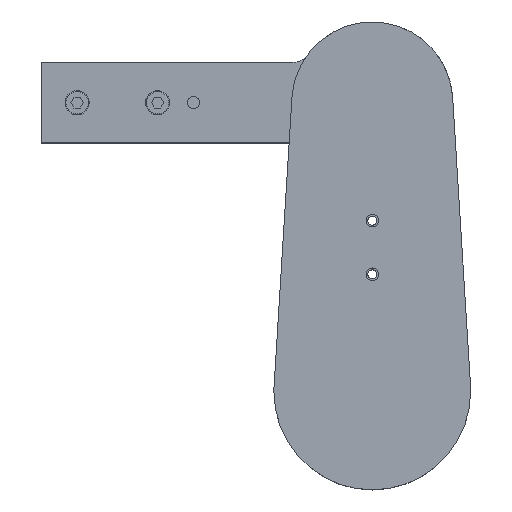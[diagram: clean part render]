
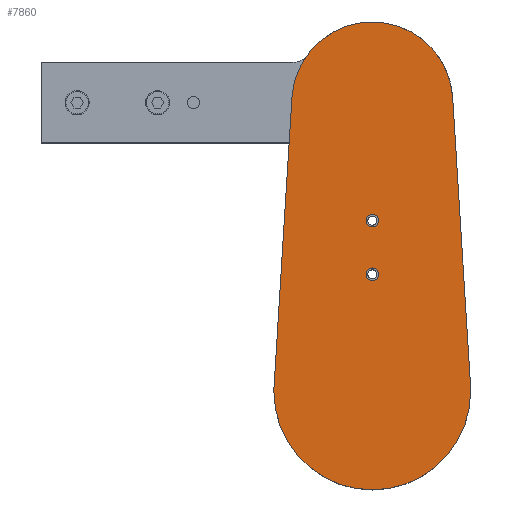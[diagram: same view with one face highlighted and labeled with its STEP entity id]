
A CAD part, top view. The second image highlights one B-rep face of the part: STEP entity #7860.
In plain terms, the highlighted planar face has unit normal (0, 0, 1) as drawn and (0, 0, -1) by its records, which use the part's own axes.
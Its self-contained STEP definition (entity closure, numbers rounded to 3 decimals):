
#61 = EDGE_CURVE ( 'NONE', #11121, #37070, #25354, .T. ) ;
#118 = EDGE_CURVE ( 'NONE', #35769, #34939, #22482, .T. ) ;
#123 = AXIS2_PLACEMENT_3D ( 'NONE', #19800, #1754, #22874 ) ;
#273 = CARTESIAN_POINT ( 'NONE',  ( -3.5, 65.5, 0. ) ) ;
#326 = CARTESIAN_POINT ( 'NONE',  ( 3.5, 95.5, 0. ) ) ;
#841 = DIRECTION ( 'NONE',  ( 1., 0., 0. ) ) ;
#1150 = DIRECTION ( 'NONE',  ( 0., 0., 1. ) ) ;
#1428 = CIRCLE ( 'NONE', #12777, 3.5 ) ;
#1754 = DIRECTION ( 'NONE',  ( 0., 0., -1. ) ) ;
#1779 = ORIENTED_EDGE ( 'NONE', *, *, #31655, .F. ) ;
#3441 = VECTOR ( 'NONE', #25063, 1000. ) ;
#3688 = VERTEX_POINT ( 'NONE', #273 ) ;
#4233 = CARTESIAN_POINT ( 'NONE',  ( 44.914, 164.286, 0. ) ) ;
#4661 = EDGE_CURVE ( 'NONE', #19662, #3688, #1428, .T. ) ;
#5235 = VECTOR ( 'NONE', #28407, 1000. ) ;
#5456 = FACE_BOUND ( 'NONE', #28185, .T. ) ;
#5550 = CARTESIAN_POINT ( 'NONE',  ( -44.914, 164.286, 0. ) ) ;
#5711 = ORIENTED_EDGE ( 'NONE', *, *, #14341, .F. ) ;
#6231 = VERTEX_POINT ( 'NONE', #10737 ) ;
#7860 = ADVANCED_FACE ( 'NONE', ( #5456, #21486, #28590 ), #37302, .F. ) ;
#8021 = CIRCLE ( 'NONE', #36277, 3.5 ) ;
#8253 = CIRCLE ( 'NONE', #123, 3.5 ) ;
#8349 = AXIS2_PLACEMENT_3D ( 'NONE', #13120, #1150, #22245 ) ;
#8771 = VERTEX_POINT ( 'NONE', #5550 ) ;
#9019 = AXIS2_PLACEMENT_3D ( 'NONE', #28924, #10839, #31958 ) ;
#10737 = CARTESIAN_POINT ( 'NONE',  ( -3.5, 95.5, 0. ) ) ;
#10839 = DIRECTION ( 'NONE',  ( 0., 0., 1. ) ) ;
#10924 = ORIENTED_EDGE ( 'NONE', *, *, #22373, .F. ) ;
#11121 = VERTEX_POINT ( 'NONE', #21973 ) ;
#11630 = EDGE_LOOP ( 'NONE', ( #10924, #25170, #20421, #37523, #34141, #5711 ) ) ;
#11641 = CARTESIAN_POINT ( 'NONE',  ( 0., 65.5, 0. ) ) ;
#12050 = CARTESIAN_POINT ( 'NONE',  ( 0., 161.5, 0. ) ) ;
#12663 = CARTESIAN_POINT ( 'NONE',  ( 0., 95.5, 0. ) ) ;
#12777 = AXIS2_PLACEMENT_3D ( 'NONE', #11641, #32764, #14686 ) ;
#13120 = CARTESIAN_POINT ( 'NONE',  ( 0., 161.5, 0. ) ) ;
#13205 = EDGE_CURVE ( 'NONE', #3688, #19662, #22415, .T. ) ;
#14341 = EDGE_CURVE ( 'NONE', #8771, #35769, #36509, .T. ) ;
#14686 = DIRECTION ( 'NONE',  ( 1., 0., 0. ) ) ;
#14912 = DIRECTION ( 'NONE',  ( 0., 0., 1. ) ) ;
#15100 = DIRECTION ( 'NONE',  ( 1., 0., 0. ) ) ;
#15685 = DIRECTION ( 'NONE',  ( 1., 0., 0. ) ) ;
#16493 = CIRCLE ( 'NONE', #30298, 45. ) ;
#17058 = CARTESIAN_POINT ( 'NONE',  ( -54.894, 3.406, 0. ) ) ;
#17548 = DIRECTION ( 'NONE',  ( 0., 0., 1. ) ) ;
#18856 = CARTESIAN_POINT ( 'NONE',  ( 3.5, 65.5, 0. ) ) ;
#18911 = DIRECTION ( 'NONE',  ( 0., 0., -1. ) ) ;
#18962 = CARTESIAN_POINT ( 'NONE',  ( -44.914, 164.286, 0. ) ) ;
#19228 = EDGE_CURVE ( 'NONE', #6231, #34405, #8253, .T. ) ;
#19662 = VERTEX_POINT ( 'NONE', #18856 ) ;
#19800 = CARTESIAN_POINT ( 'NONE',  ( 0., 95.5, 0. ) ) ;
#20040 = CARTESIAN_POINT ( 'NONE',  ( 44.914, 164.286, 0. ) ) ;
#20421 = ORIENTED_EDGE ( 'NONE', *, *, #61, .F. ) ;
#20979 = EDGE_CURVE ( 'NONE', #34939, #11121, #38843, .T. ) ;
#21486 = FACE_BOUND ( 'NONE', #30524, .T. ) ;
#21973 = CARTESIAN_POINT ( 'NONE',  ( 55., 0., 0. ) ) ;
#22245 = DIRECTION ( 'NONE',  ( 1., 0., 0. ) ) ;
#22373 = EDGE_CURVE ( 'NONE', #36347, #8771, #16493, .T. ) ;
#22415 = CIRCLE ( 'NONE', #32519, 3.5 ) ;
#22482 = CIRCLE ( 'NONE', #36445, 55. ) ;
#22874 = DIRECTION ( 'NONE',  ( 1., 0., 0. ) ) ;
#22982 = ORIENTED_EDGE ( 'NONE', *, *, #4661, .F. ) ;
#24407 = ORIENTED_EDGE ( 'NONE', *, *, #13205, .F. ) ;
#25063 = DIRECTION ( 'NONE',  ( -0.062, -0.998, 0. ) ) ;
#25170 = ORIENTED_EDGE ( 'NONE', *, *, #31252, .F. ) ;
#25354 = CIRCLE ( 'NONE', #28353, 55. ) ;
#26362 = CARTESIAN_POINT ( 'NONE',  ( 54.894, 3.406, 0. ) ) ;
#28185 = EDGE_LOOP ( 'NONE', ( #1779, #36656 ) ) ;
#28353 = AXIS2_PLACEMENT_3D ( 'NONE', #35656, #17548, #38677 ) ;
#28407 = DIRECTION ( 'NONE',  ( -0.062, 0.998, 0. ) ) ;
#28590 = FACE_OUTER_BOUND ( 'NONE', #11630, .T. ) ;
#28924 = CARTESIAN_POINT ( 'NONE',  ( 0., 0., 0. ) ) ;
#30298 = AXIS2_PLACEMENT_3D ( 'NONE', #12050, #33185, #15100 ) ;
#30524 = EDGE_LOOP ( 'NONE', ( #22982, #24407 ) ) ;
#31252 = EDGE_CURVE ( 'NONE', #37070, #36347, #37346, .T. ) ;
#31655 = EDGE_CURVE ( 'NONE', #34405, #6231, #8021, .T. ) ;
#31958 = DIRECTION ( 'NONE',  ( 1., 0., 0. ) ) ;
#32519 = AXIS2_PLACEMENT_3D ( 'NONE', #37000, #18911, #841 ) ;
#32764 = DIRECTION ( 'NONE',  ( 0., 0., -1. ) ) ;
#32988 = CARTESIAN_POINT ( 'NONE',  ( 0., 0., 0. ) ) ;
#33185 = DIRECTION ( 'NONE',  ( 0., 0., 1. ) ) ;
#33565 = CARTESIAN_POINT ( 'NONE',  ( -55., 0., 0. ) ) ;
#33806 = DIRECTION ( 'NONE',  ( 0., 0., -1. ) ) ;
#34141 = ORIENTED_EDGE ( 'NONE', *, *, #118, .F. ) ;
#34405 = VERTEX_POINT ( 'NONE', #326 ) ;
#34939 = VERTEX_POINT ( 'NONE', #33565 ) ;
#35656 = CARTESIAN_POINT ( 'NONE',  ( 0., 0., 0. ) ) ;
#35769 = VERTEX_POINT ( 'NONE', #17058 ) ;
#36031 = DIRECTION ( 'NONE',  ( 1., 0., 0. ) ) ;
#36277 = AXIS2_PLACEMENT_3D ( 'NONE', #12663, #33806, #15685 ) ;
#36347 = VERTEX_POINT ( 'NONE', #20040 ) ;
#36445 = AXIS2_PLACEMENT_3D ( 'NONE', #32988, #14912, #36031 ) ;
#36509 = LINE ( 'NONE', #18962, #3441 ) ;
#36656 = ORIENTED_EDGE ( 'NONE', *, *, #19228, .F. ) ;
#37000 = CARTESIAN_POINT ( 'NONE',  ( 0., 65.5, 0. ) ) ;
#37070 = VERTEX_POINT ( 'NONE', #26362 ) ;
#37302 = PLANE ( 'NONE',  #8349 ) ;
#37346 = LINE ( 'NONE', #4233, #5235 ) ;
#37523 = ORIENTED_EDGE ( 'NONE', *, *, #20979, .F. ) ;
#38677 = DIRECTION ( 'NONE',  ( 1., 0., 0. ) ) ;
#38843 = CIRCLE ( 'NONE', #9019, 55. ) ;
